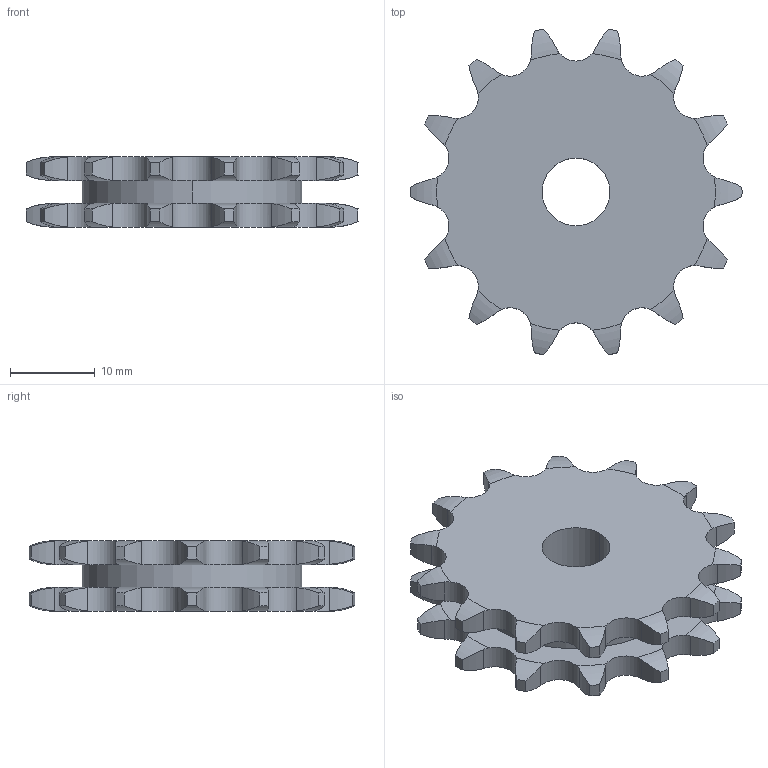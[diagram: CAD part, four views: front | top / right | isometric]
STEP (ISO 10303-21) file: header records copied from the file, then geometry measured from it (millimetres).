
FILE_DESCRIPTION((''),'2;1');
FILE_NAME('500-082-0014_PRT','2021-02-12T',('Brieden'),('Brieden'),'PRO/ENGINEER BY PARAMETRIC TECHNOLOGY CORPORATION, 2010160','PRO/ENGINEER BY PARAMETRIC TECHNOLOGY CORPORATION, 2010160','');
FILE_SCHEMA(('AUTOMOTIVE_DESIGN { 1 0 10303 214 1 1 1 1 }'));
Length unit declared in the file: millimetre
Products named in the file (1): 500-082-0014_PRT
Bounding box: 39.2 x 38.45 x 8.3 mm (x, y, z)
Volume: 6096 mm3; surface area: 3810.3 mm2
Topology: 1 solids, 1 shells, 176 faces, 516 edges, 344 vertices
Faces by surface type: cylinder 116, torus 56, plane 4
Entity records: 8413 total; most frequent: CARTESIAN_POINT 2382, ORIENTED_EDGE 1032, DIRECTION 820, PRESENTATION_STYLE_ASSIGNMENT 517, STYLED_ITEM 517, CURVE_STYLE 516, EDGE_CURVE 516, AXIS2_PLACEMENT_3D 352
